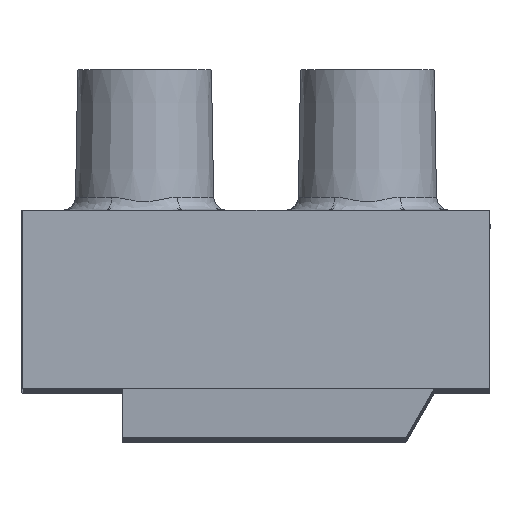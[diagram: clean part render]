
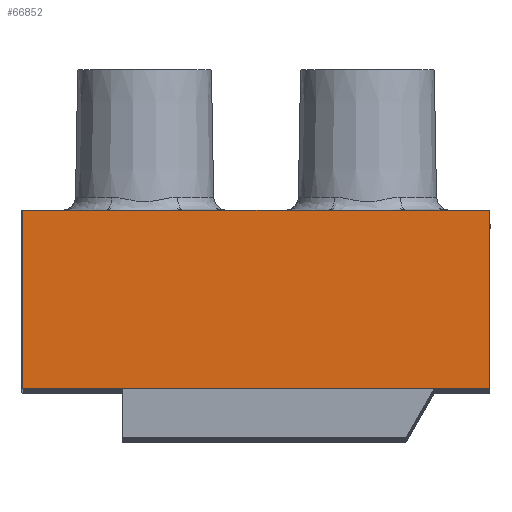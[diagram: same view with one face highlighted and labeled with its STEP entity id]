
A CAD part, top view. The second image highlights one B-rep face of the part: STEP entity #66852.
In plain terms, the highlighted planar face has unit normal (0, 0, 1).
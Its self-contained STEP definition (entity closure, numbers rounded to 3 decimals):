
#50836 = CARTESIAN_POINT ( 'NONE',  ( 0., 1.7, 0. ) ) ;
#51180 = CARTESIAN_POINT ( 'NONE',  ( 0., 9.7, 0. ) ) ;
#51181 = DIRECTION ( 'NONE',  ( 0., 1., 0. ) ) ;
#51182 = VECTOR ( 'NONE', #51181, 1000. ) ;
#51184 = CARTESIAN_POINT ( 'NONE',  ( 0., 5.7, 0. ) ) ;
#51186 = LINE ( 'NONE', #51184, #51182 ) ;
#51217 = CARTESIAN_POINT ( 'NONE',  ( 13.732, 9.7, 0. ) ) ;
#51220 = DIRECTION ( 'NONE',  ( 1., 0., 0. ) ) ;
#51222 = VECTOR ( 'NONE', #51220, 1000. ) ;
#51223 = CARTESIAN_POINT ( 'NONE',  ( 10.5, 9.7, 0. ) ) ;
#51224 = LINE ( 'NONE', #51223, #51222 ) ;
#51270 = DIRECTION ( 'NONE',  ( 1., 0., 0. ) ) ;
#51271 = VECTOR ( 'NONE', #51270, 1000. ) ;
#51272 = CARTESIAN_POINT ( 'NONE',  ( 10.5, 9.7, 0. ) ) ;
#51274 = LINE ( 'NONE', #51272, #51271 ) ;
#51282 = CARTESIAN_POINT ( 'NONE',  ( 21., 9.7, 0. ) ) ;
#51285 = DIRECTION ( 'NONE',  ( 1., 0., 0. ) ) ;
#51286 = VECTOR ( 'NONE', #51285, 1000. ) ;
#51288 = CARTESIAN_POINT ( 'NONE',  ( 10.5, 9.7, 0. ) ) ;
#51289 = LINE ( 'NONE', #51288, #51286 ) ;
#51343 = CARTESIAN_POINT ( 'NONE',  ( 21., 5.7, 0. ) ) ;
#51344 = LINE ( 'NONE', #51343, #51452 ) ;
#51377 = CARTESIAN_POINT ( 'NONE',  ( 7.268, 9.7, 0. ) ) ;
#51378 = DIRECTION ( 'NONE',  ( 1., 0., 0. ) ) ;
#51379 = VECTOR ( 'NONE', #51378, 1000. ) ;
#51380 = CARTESIAN_POINT ( 'NONE',  ( 10.5, 9.7, 0. ) ) ;
#51381 = LINE ( 'NONE', #51380, #51379 ) ;
#51450 = CARTESIAN_POINT ( 'NONE',  ( 21., 1.7, 0. ) ) ;
#51451 = DIRECTION ( 'NONE',  ( 0., -1., 0. ) ) ;
#51452 = VECTOR ( 'NONE', #51451, 1000. ) ;
#51533 = DIRECTION ( 'NONE',  ( -1., 0., 0. ) ) ;
#51535 = VECTOR ( 'NONE', #51533, 1000. ) ;
#51536 = CARTESIAN_POINT ( 'NONE',  ( 10.5, 1.7, 0. ) ) ;
#51538 = LINE ( 'NONE', #51536, #51535 ) ;
#51647 = DIRECTION ( 'NONE',  ( -1., 0., 0. ) ) ;
#51648 = VECTOR ( 'NONE', #51647, 1000. ) ;
#51649 = CARTESIAN_POINT ( 'NONE',  ( 10.5, 1.7, 0. ) ) ;
#51650 = LINE ( 'NONE', #51649, #51648 ) ;
#51658 = DIRECTION ( 'NONE',  ( -1., 0., 0. ) ) ;
#51660 = VECTOR ( 'NONE', #51658, 1000. ) ;
#51662 = CARTESIAN_POINT ( 'NONE',  ( 10.5, 1.7, 0. ) ) ;
#51664 = LINE ( 'NONE', #51662, #51660 ) ;
#61293 = DIRECTION ( 'NONE',  ( 0., 0., -1. ) ) ;
#61295 = CARTESIAN_POINT ( 'NONE',  ( 0., 1.7, 0. ) ) ;
#61297 = AXIS2_PLACEMENT_3D ( 'NONE', #61295, #61293, #61367 ) ;
#61298 = PLANE ( 'NONE',  #61297 ) ;
#61367 = DIRECTION ( 'NONE',  ( 0., 1., 0. ) ) ;
#61402 = FACE_OUTER_BOUND ( 'NONE', #66857, .T. ) ;
#61955 = VERTEX_POINT ( 'NONE', #50836 ) ;
#62002 = DIRECTION ( 'NONE',  ( -1., 0., 0. ) ) ;
#62004 = VECTOR ( 'NONE', #62002, 1000. ) ;
#62006 = CARTESIAN_POINT ( 'NONE',  ( 0., 9.7, 0. ) ) ;
#62007 = LINE ( 'NONE', #62006, #62004 ) ;
#62022 = EDGE_CURVE ( 'NONE', #61955, #62024, #51186, .T. ) ;
#62024 = VERTEX_POINT ( 'NONE', #51180 ) ;
#62065 = EDGE_CURVE ( 'NONE', #62066, #69590, #51224, .T. ) ;
#62066 = VERTEX_POINT ( 'NONE', #51217 ) ;
#62086 = EDGE_CURVE ( 'NONE', #69590, #62087, #51289, .T. ) ;
#62087 = VERTEX_POINT ( 'NONE', #51282 ) ;
#62092 = EDGE_CURVE ( 'NONE', #62024, #80572, #51274, .T. ) ;
#62105 = EDGE_CURVE ( 'NONE', #80572, #62106, #51381, .T. ) ;
#62106 = VERTEX_POINT ( 'NONE', #51377 ) ;
#62147 = EDGE_CURVE ( 'NONE', #62087, #62149, #51344, .T. ) ;
#62149 = VERTEX_POINT ( 'NONE', #51450 ) ;
#62232 = EDGE_CURVE ( 'NONE', #69705, #69856, #51538, .T. ) ;
#62306 = EDGE_CURVE ( 'NONE', #62149, #69705, #51664, .T. ) ;
#62319 = EDGE_CURVE ( 'NONE', #69856, #61955, #51650, .T. ) ;
#66852 = ADVANCED_FACE ( 'NONE', ( #61402 ), #61298, .F. ) ;
#66857 = EDGE_LOOP ( 'NONE', ( #66864, #66866, #66872, #66877, #66941, #66943, #66950, #66955, #66958, #66963 ) ) ;
#66864 = ORIENTED_EDGE ( 'NONE', *, *, #62232, .F. ) ;
#66866 = ORIENTED_EDGE ( 'NONE', *, *, #62306, .F. ) ;
#66872 = ORIENTED_EDGE ( 'NONE', *, *, #62147, .F. ) ;
#66877 = ORIENTED_EDGE ( 'NONE', *, *, #62086, .F. ) ;
#66941 = ORIENTED_EDGE ( 'NONE', *, *, #62065, .F. ) ;
#66943 = ORIENTED_EDGE ( 'NONE', *, *, #66946, .T. ) ;
#66946 = EDGE_CURVE ( 'NONE', #62066, #62106, #62007, .T. ) ;
#66950 = ORIENTED_EDGE ( 'NONE', *, *, #62105, .F. ) ;
#66955 = ORIENTED_EDGE ( 'NONE', *, *, #62092, .F. ) ;
#66958 = ORIENTED_EDGE ( 'NONE', *, *, #62022, .F. ) ;
#66963 = ORIENTED_EDGE ( 'NONE', *, *, #62319, .F. ) ;
#69590 = VERTEX_POINT ( 'NONE', #72047 ) ;
#69705 = VERTEX_POINT ( 'NONE', #72364 ) ;
#69856 = VERTEX_POINT ( 'NONE', #72682 ) ;
#72047 = CARTESIAN_POINT ( 'NONE',  ( 17.268, 9.7, 0. ) ) ;
#72364 = CARTESIAN_POINT ( 'NONE',  ( 18.5, 1.7, 0. ) ) ;
#72682 = CARTESIAN_POINT ( 'NONE',  ( 4.5, 1.7, 0. ) ) ;
#79615 = CARTESIAN_POINT ( 'NONE',  ( 3.732, 9.7, 0. ) ) ;
#80572 = VERTEX_POINT ( 'NONE', #79615 ) ;
